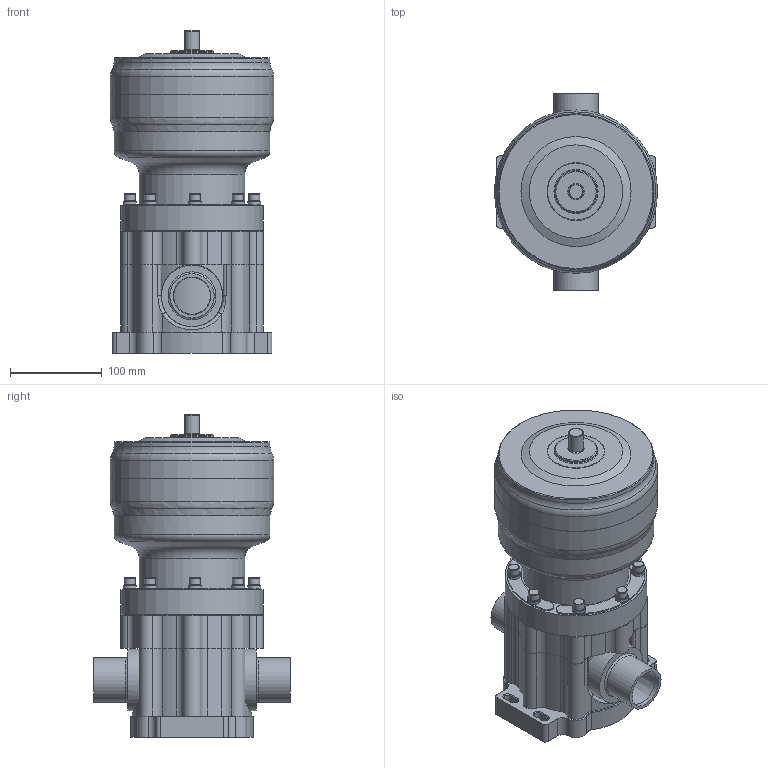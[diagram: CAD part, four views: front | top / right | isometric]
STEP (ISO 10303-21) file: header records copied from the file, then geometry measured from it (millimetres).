
FILE_DESCRIPTION(/* description */ (''),/* implementation_level */ '2;1');
FILE_NAME(/* name */ '40A AV Assy_stp.stp',/* time_stamp */ '2019-10-04T16:16:58+09:00',/* author */ (''),/* organization */ (''),/* preprocessor_version */ 'ST-DEVELOPER v11',/* originating_system */ 'SIEMENS PLM Software NX 7.5',/* authorisation */ '');
FILE_SCHEMA (('CONFIG_CONTROL_DESIGN'));
Length unit declared in the file: millimetre
Products named in the file (10): Middle Case(50A); 40A BODY; M6 PP End CAP; Upper Case2; PLate; Top Case(50A) - 0525; PC CAP; 2Inch Base (Final); Middle Case(50A) Assy; 40A AV Assy_stp
Assembly tree (17 placements, depth 3):
  40A AV Assy_stp
    Middle Case(50A) Assy
      Middle Case(50A)
    2Inch Base (Final)
    PC CAP
    Top Case(50A) - 0525
    PLate  x2
    Upper Case2
    M6 PP End CAP  x8
    40A BODY
Bounding box: 178 x 214 x 351.5 mm (x, y, z)
Volume: 6354896.4 mm3; surface area: 514551.5 mm2
Topology: 16 solids, 16 shells, 694 faces, 1662 edges, 1022 vertices
Faces by surface type: plane 242, cylinder 238, bspline 95, torus 58, sphere 32, cone 29
Full cylindrical faces by diameter (mm): 3 x1, 6.5 x14, 8.566 x1, 11 x6, 12 x8, 14.5 x8, 16 x1, 20 x1, 25 x1, 41 x2, 45 x1, 46 x1, 48.3 x2, 63 x1, 65 x1, 67 x2, 95 x1, 104 x1, 105.588 x1, 115 x1, 119 x1, 129 x1, 155 x1, 170 x2, 178 x2
Entity records: 23123 total; most frequent: CARTESIAN_POINT 7758, DIRECTION 2965, ORIENTED_EDGE 2854, EDGE_CURVE 1427, AXIS2_PLACEMENT_3D 1215, VERTEX_POINT 921, EDGE_LOOP 762, CIRCLE 645
